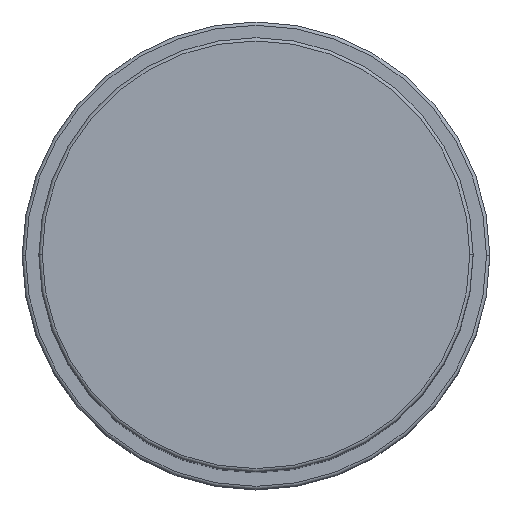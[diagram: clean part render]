
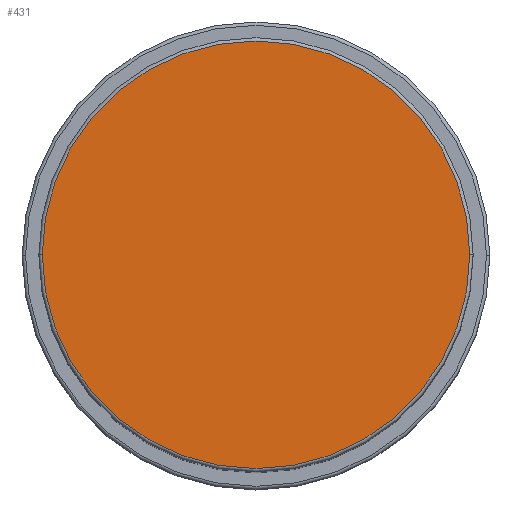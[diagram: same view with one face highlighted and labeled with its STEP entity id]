
A CAD part, top view. The second image highlights one B-rep face of the part: STEP entity #431.
In plain terms, the highlighted planar face has unit normal (0, 0, 1).
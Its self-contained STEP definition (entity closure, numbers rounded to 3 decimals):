
#141 = AXIS2_PLACEMENT_3D ( 'NONE', #665, #1936, #367 ) ;
#238 = FACE_OUTER_BOUND ( 'NONE', #826, .T. ) ;
#347 = VERTEX_POINT ( 'NONE', #1935 ) ;
#367 = DIRECTION ( 'NONE',  ( 1., 0., 0. ) ) ;
#370 = ORIENTED_EDGE ( 'NONE', *, *, #1699, .T. ) ;
#431 = ADVANCED_FACE ( 'NONE', ( #238 ), #1608, .T. ) ;
#518 = CIRCLE ( 'NONE', #918, 32. ) ;
#656 = DIRECTION ( 'NONE',  ( 0., 0., 1. ) ) ;
#665 = CARTESIAN_POINT ( 'NONE',  ( 0., 0., 117. ) ) ;
#706 = DIRECTION ( 'NONE',  ( 1., 0., 0. ) ) ;
#709 = CIRCLE ( 'NONE', #141, 32. ) ;
#826 = EDGE_LOOP ( 'NONE', ( #1139, #370 ) ) ;
#874 = EDGE_CURVE ( 'NONE', #347, #1111, #518, .T. ) ;
#918 = AXIS2_PLACEMENT_3D ( 'NONE', #1041, #1212, #706 ) ;
#1041 = CARTESIAN_POINT ( 'NONE',  ( 0., 0., 117. ) ) ;
#1111 = VERTEX_POINT ( 'NONE', #1760 ) ;
#1139 = ORIENTED_EDGE ( 'NONE', *, *, #874, .T. ) ;
#1212 = DIRECTION ( 'NONE',  ( 0., 0., 1. ) ) ;
#1273 = AXIS2_PLACEMENT_3D ( 'NONE', #1616, #656, #1766 ) ;
#1608 = PLANE ( 'NONE',  #1273 ) ;
#1616 = CARTESIAN_POINT ( 'NONE',  ( 0., 0., 117. ) ) ;
#1699 = EDGE_CURVE ( 'NONE', #1111, #347, #709, .T. ) ;
#1760 = CARTESIAN_POINT ( 'NONE',  ( -32., 0., 117. ) ) ;
#1766 = DIRECTION ( 'NONE',  ( 1., 0., 0. ) ) ;
#1935 = CARTESIAN_POINT ( 'NONE',  ( 32., 0., 117. ) ) ;
#1936 = DIRECTION ( 'NONE',  ( 0., 0., 1. ) ) ;
